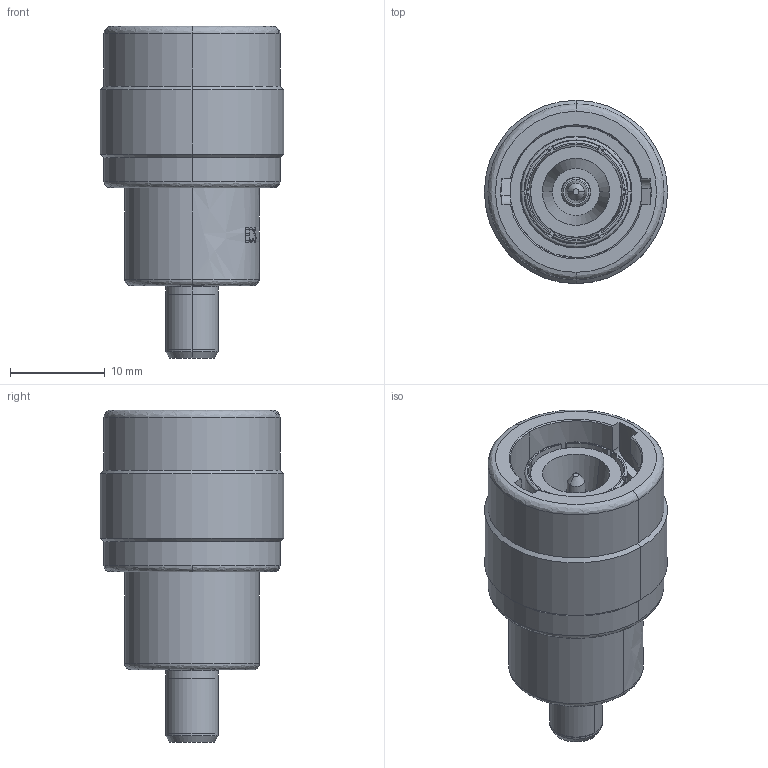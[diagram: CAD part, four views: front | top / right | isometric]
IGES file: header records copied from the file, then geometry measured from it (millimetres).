
Start section:  PTC IGES file: CCS922.igs
Global section: file name: CCS922.igs; native system: Creo Parametric by PTC Inc.; preprocessor: 2017260; author: mgoskowicz; organization: Unknown; date: 20191121.144531; units: inch
Bounding box: 19.3 x 19.3 x 34.98 mm (x, y, z)
Surface area: 3802.2 mm2 (no closed solid volume)
Topology: 0 solids, 0 shells, 503 faces, 2846 edges, 2846 vertices
Faces by surface type: bspline 403, revolution 100
